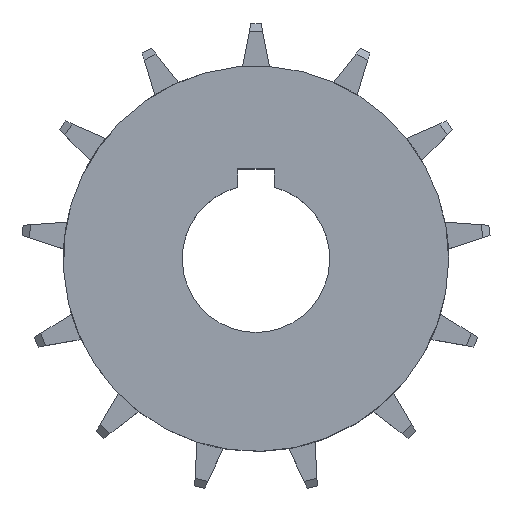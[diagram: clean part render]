
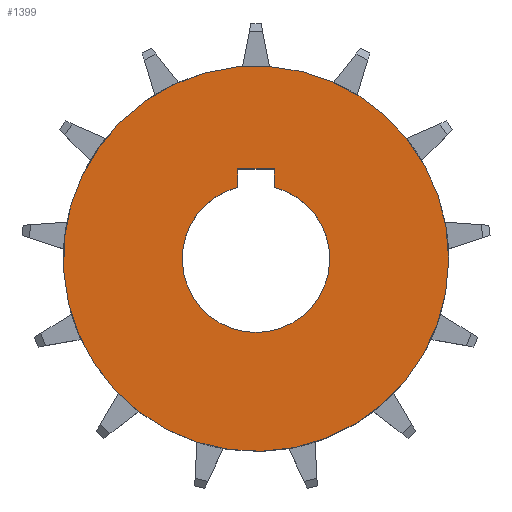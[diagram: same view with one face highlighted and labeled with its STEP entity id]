
A CAD part, top view. The second image highlights one B-rep face of the part: STEP entity #1399.
In plain terms, the highlighted planar face has unit normal (0, 0, 1).
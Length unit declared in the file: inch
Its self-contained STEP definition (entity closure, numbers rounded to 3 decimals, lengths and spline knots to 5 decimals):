
#2=CARTESIAN_POINT('',(0.,0.,0.));
#3=DIRECTION('',(0.,0.,1.));
#4=DIRECTION('',(0.663,0.749,0.));
#5=AXIS2_PLACEMENT_3D('',#2,#3,#4);
#7=DIRECTION('',(0.,-1.,0.));
#8=VECTOR('',#7,0.25);
#9=CARTESIAN_POINT('',(0.25,1.21825,0.));
#10=LINE('',#9,#8);
#11=DIRECTION('',(1.,0.,0.));
#12=VECTOR('',#11,0.5);
#13=CARTESIAN_POINT('',(-0.25,1.21825,0.));
#14=LINE('',#13,#12);
#15=DIRECTION('',(0.,1.,0.));
#16=VECTOR('',#15,0.25);
#17=CARTESIAN_POINT('',(-0.25,0.96825,0.));
#18=LINE('',#17,#16);
#19=CARTESIAN_POINT('',(0.,0.,0.));
#20=DIRECTION('',(0.,0.,-1.));
#21=DIRECTION('',(0.25,0.968,0.));
#22=AXIS2_PLACEMENT_3D('',#19,#20,#21);
#240=CARTESIAN_POINT('',(0.,0.,0.));
#241=DIRECTION('',(0.,0.,1.));
#242=DIRECTION('',(0.239,0.971,0.));
#243=AXIS2_PLACEMENT_3D('',#240,#241,#242);
#1051=CARTESIAN_POINT('',(0.62527,2.53681,0.));
#1053=VERTEX_POINT('',#1051);
#1055=CARTESIAN_POINT('',(1.73256,1.95565,0.));
#1057=VERTEX_POINT('',#1055);
#1362=CARTESIAN_POINT('',(0.25,1.21825,0.));
#1363=CARTESIAN_POINT('',(0.25,0.96825,0.));
#1364=VERTEX_POINT('',#1362);
#1365=VERTEX_POINT('',#1363);
#1366=CARTESIAN_POINT('',(-0.25,0.96825,0.));
#1367=VERTEX_POINT('',#1366);
#1368=CARTESIAN_POINT('',(-0.25,1.21825,0.));
#1369=VERTEX_POINT('',#1368);
#1378=CARTESIAN_POINT('',(0.,0.,0.));
#1379=DIRECTION('',(0.,0.,1.));
#1380=DIRECTION('',(1.,0.,0.));
#1381=AXIS2_PLACEMENT_3D('',#1378,#1379,#1380);
#1382=PLANE('',#1381);
#1384=ORIENTED_EDGE('',*,*,#1383,.F.);
#1386=ORIENTED_EDGE('',*,*,#1385,.F.);
#1387=EDGE_LOOP('',(#1384,#1386));
#1388=FACE_OUTER_BOUND('',#1387,.F.);
#1390=ORIENTED_EDGE('',*,*,#1389,.F.);
#1392=ORIENTED_EDGE('',*,*,#1391,.F.);
#1394=ORIENTED_EDGE('',*,*,#1393,.F.);
#1396=ORIENTED_EDGE('',*,*,#1395,.F.);
#1397=EDGE_LOOP('',(#1390,#1392,#1394,#1396));
#1398=FACE_BOUND('',#1397,.F.);
#1399=ADVANCED_FACE('',(#1388,#1398),#1382,.T.);
#6=CIRCLE('',#5,2.61273);
#23=CIRCLE('',#22,1.);
#244=CIRCLE('',#243,2.61273);
#1383=EDGE_CURVE('',#1053,#1057,#244,.T.);
#1385=EDGE_CURVE('',#1057,#1053,#6,.T.);
#1389=EDGE_CURVE('',#1364,#1365,#10,.T.);
#1391=EDGE_CURVE('',#1369,#1364,#14,.T.);
#1393=EDGE_CURVE('',#1367,#1369,#18,.T.);
#1395=EDGE_CURVE('',#1365,#1367,#23,.T.);
